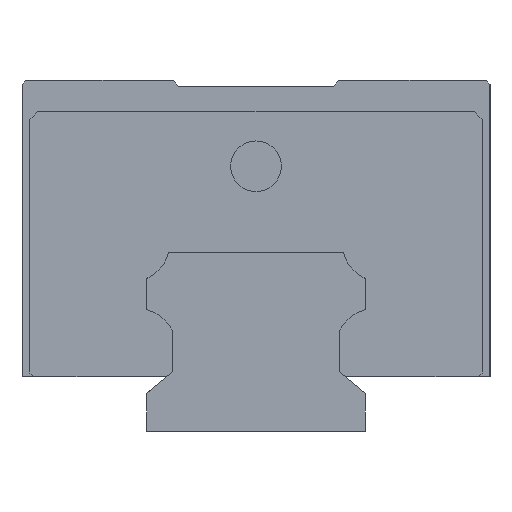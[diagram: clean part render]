
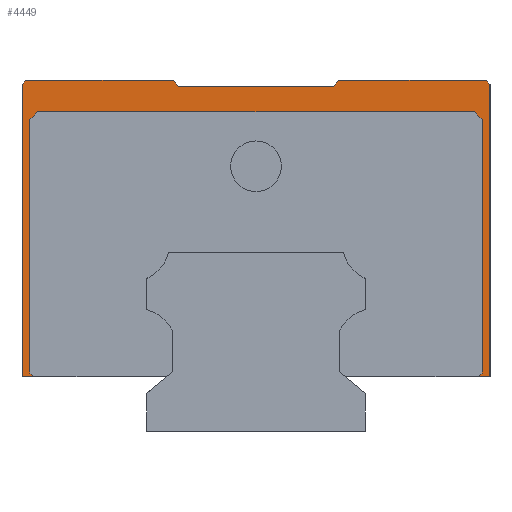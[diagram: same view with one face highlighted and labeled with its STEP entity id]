
A CAD part, left-side view. The second image highlights one B-rep face of the part: STEP entity #4449.
In plain terms, the highlighted planar face has unit normal (-1, 0, 0).
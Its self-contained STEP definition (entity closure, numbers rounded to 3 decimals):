
#4 = VERTEX_POINT ( 'NONE', #630 ) ;
#79 = VERTEX_POINT ( 'NONE', #2461 ) ;
#91 = DIRECTION ( 'NONE',  ( 0., 0.643, 0.766 ) ) ;
#141 = LINE ( 'NONE', #1831, #2253 ) ;
#146 = VECTOR ( 'NONE', #91, 1000. ) ;
#158 = DIRECTION ( 'NONE',  ( 0., -0.707, -0.707 ) ) ;
#300 = LINE ( 'NONE', #2016, #924 ) ;
#383 = CARTESIAN_POINT ( 'NONE',  ( -52.5, -29., 40. ) ) ;
#402 = DIRECTION ( 'NONE',  ( 0., 1., 0. ) ) ;
#423 = VERTEX_POINT ( 'NONE', #5238 ) ;
#555 = ORIENTED_EDGE ( 'NONE', *, *, #4187, .T. ) ;
#568 = VECTOR ( 'NONE', #742, 1000. ) ;
#569 = ORIENTED_EDGE ( 'NONE', *, *, #3364, .T. ) ;
#630 = CARTESIAN_POINT ( 'NONE',  ( -52.5, 28., 41. ) ) ;
#649 = EDGE_CURVE ( 'NONE', #79, #1020, #2998, .T. ) ;
#742 = DIRECTION ( 'NONE',  ( 0., 0., -1. ) ) ;
#747 = VECTOR ( 'NONE', #2285, 1000. ) ;
#765 = EDGE_CURVE ( 'NONE', #2109, #4, #3058, .T. ) ;
#771 = VERTEX_POINT ( 'NONE', #2939 ) ;
#795 = CARTESIAN_POINT ( 'NONE',  ( -52.5, 30., 44.5 ) ) ;
#798 = LINE ( 'NONE', #3727, #4197 ) ;
#803 = CARTESIAN_POINT ( 'NONE',  ( -52.5, -10.629, 45. ) ) ;
#828 = ORIENTED_EDGE ( 'NONE', *, *, #4360, .F. ) ;
#846 = VECTOR ( 'NONE', #1094, 1000. ) ;
#902 = CARTESIAN_POINT ( 'NONE',  ( -52.5, -10., 44.25 ) ) ;
#910 = EDGE_CURVE ( 'NONE', #5197, #4742, #2005, .T. ) ;
#924 = VECTOR ( 'NONE', #4550, 1000. ) ;
#937 = DIRECTION ( 'NONE',  ( 0., -1., 0. ) ) ;
#1020 = VERTEX_POINT ( 'NONE', #3743 ) ;
#1094 = DIRECTION ( 'NONE',  ( 0., 0.707, -0.707 ) ) ;
#1106 = CARTESIAN_POINT ( 'NONE',  ( -52.5, 28.5, 7. ) ) ;
#1114 = VERTEX_POINT ( 'NONE', #1322 ) ;
#1295 = VECTOR ( 'NONE', #402, 1000. ) ;
#1305 = EDGE_CURVE ( 'NONE', #1405, #3323, #4878, .T. ) ;
#1313 = ORIENTED_EDGE ( 'NONE', *, *, #765, .T. ) ;
#1322 = CARTESIAN_POINT ( 'NONE',  ( -52.5, 30., 7. ) ) ;
#1383 = LINE ( 'NONE', #3061, #2097 ) ;
#1405 = VERTEX_POINT ( 'NONE', #1686 ) ;
#1474 = LINE ( 'NONE', #5372, #2506 ) ;
#1533 = VECTOR ( 'NONE', #2783, 1000. ) ;
#1585 = DIRECTION ( 'NONE',  ( 0., 1., 0. ) ) ;
#1611 = VECTOR ( 'NONE', #2058, 1000. ) ;
#1651 = LINE ( 'NONE', #2911, #1295 ) ;
#1686 = CARTESIAN_POINT ( 'NONE',  ( -52.5, 28.5, 7. ) ) ;
#1726 = DIRECTION ( 'NONE',  ( 0., 0.707, -0.707 ) ) ;
#1777 = ORIENTED_EDGE ( 'NONE', *, *, #910, .F. ) ;
#1831 = CARTESIAN_POINT ( 'NONE',  ( -52.5, -29., 7.5 ) ) ;
#1885 = ORIENTED_EDGE ( 'NONE', *, *, #5195, .F. ) ;
#1971 = FACE_OUTER_BOUND ( 'NONE', #2218, .T. ) ;
#2001 = PLANE ( 'NONE',  #3222 ) ;
#2005 = LINE ( 'NONE', #3624, #1611 ) ;
#2016 = CARTESIAN_POINT ( 'NONE',  ( -52.5, -10.629, 45. ) ) ;
#2058 = DIRECTION ( 'NONE',  ( 0., 1., 0. ) ) ;
#2097 = VECTOR ( 'NONE', #937, 1000. ) ;
#2109 = VERTEX_POINT ( 'NONE', #2770 ) ;
#2200 = CARTESIAN_POINT ( 'NONE',  ( -52.5, 29., 7.5 ) ) ;
#2206 = DIRECTION ( 'NONE',  ( 0., 0., 1. ) ) ;
#2218 = EDGE_LOOP ( 'NONE', ( #2380, #4377, #1313, #3013, #4128, #5180, #569, #1777, #1885, #5128, #3034, #4236, #2710, #4536, #4366, #555, #4429, #828 ) ) ;
#2253 = VECTOR ( 'NONE', #1726, 1000. ) ;
#2254 = VECTOR ( 'NONE', #3350, 1000. ) ;
#2257 = EDGE_CURVE ( 'NONE', #4, #3428, #2530, .T. ) ;
#2266 = LINE ( 'NONE', #4467, #846 ) ;
#2285 = DIRECTION ( 'NONE',  ( 0., 0.707, 0.707 ) ) ;
#2307 = LINE ( 'NONE', #3992, #747 ) ;
#2380 = ORIENTED_EDGE ( 'NONE', *, *, #1305, .T. ) ;
#2408 = DIRECTION ( 'NONE',  ( 0., 0., 1. ) ) ;
#2461 = CARTESIAN_POINT ( 'NONE',  ( -52.5, -10., 44.25 ) ) ;
#2473 = EDGE_CURVE ( 'NONE', #2740, #2652, #2307, .T. ) ;
#2504 = DIRECTION ( 'NONE',  ( 0., -0.707, 0.707 ) ) ;
#2506 = VECTOR ( 'NONE', #158, 1000. ) ;
#2519 = VECTOR ( 'NONE', #2408, 1000. ) ;
#2530 = LINE ( 'NONE', #3325, #2254 ) ;
#2558 = EDGE_CURVE ( 'NONE', #3323, #2109, #2928, .T. ) ;
#2592 = CARTESIAN_POINT ( 'NONE',  ( -52.5, -29., 40. ) ) ;
#2652 = VERTEX_POINT ( 'NONE', #2901 ) ;
#2710 = ORIENTED_EDGE ( 'NONE', *, *, #649, .T. ) ;
#2740 = VERTEX_POINT ( 'NONE', #5164 ) ;
#2770 = CARTESIAN_POINT ( 'NONE',  ( -52.5, 29., 40. ) ) ;
#2783 = DIRECTION ( 'NONE',  ( 0., 0.707, 0.707 ) ) ;
#2800 = CARTESIAN_POINT ( 'NONE',  ( -52.5, 10.629, 45. ) ) ;
#2891 = EDGE_CURVE ( 'NONE', #3281, #79, #300, .T. ) ;
#2901 = CARTESIAN_POINT ( 'NONE',  ( -52.5, -29.5, 45. ) ) ;
#2911 = CARTESIAN_POINT ( 'NONE',  ( -52.5, 11.769, 7. ) ) ;
#2925 = LINE ( 'NONE', #5059, #5084 ) ;
#2928 = LINE ( 'NONE', #4607, #2519 ) ;
#2939 = CARTESIAN_POINT ( 'NONE',  ( -52.5, -29., 7.5 ) ) ;
#2972 = VERTEX_POINT ( 'NONE', #795 ) ;
#2998 = LINE ( 'NONE', #902, #5312 ) ;
#3013 = ORIENTED_EDGE ( 'NONE', *, *, #2257, .T. ) ;
#3034 = ORIENTED_EDGE ( 'NONE', *, *, #4776, .F. ) ;
#3058 = LINE ( 'NONE', #4222, #3369 ) ;
#3061 = CARTESIAN_POINT ( 'NONE',  ( -52.5, 30., 45. ) ) ;
#3063 = CARTESIAN_POINT ( 'NONE',  ( -52.5, -30., 45. ) ) ;
#3085 = CARTESIAN_POINT ( 'NONE',  ( -52.5, -30., 7. ) ) ;
#3098 = CARTESIAN_POINT ( 'NONE',  ( -52.5, -28., 41. ) ) ;
#3100 = EDGE_CURVE ( 'NONE', #3428, #5284, #1474, .T. ) ;
#3222 = AXIS2_PLACEMENT_3D ( 'NONE', #3707, #4966, #1585 ) ;
#3281 = VERTEX_POINT ( 'NONE', #803 ) ;
#3323 = VERTEX_POINT ( 'NONE', #2200 ) ;
#3325 = CARTESIAN_POINT ( 'NONE',  ( -52.5, 28., 41. ) ) ;
#3350 = DIRECTION ( 'NONE',  ( 0., -1., 0. ) ) ;
#3364 = EDGE_CURVE ( 'NONE', #771, #4742, #141, .T. ) ;
#3369 = VECTOR ( 'NONE', #2504, 1000. ) ;
#3414 = LINE ( 'NONE', #3885, #146 ) ;
#3428 = VERTEX_POINT ( 'NONE', #3098 ) ;
#3610 = EDGE_CURVE ( 'NONE', #5284, #771, #3696, .T. ) ;
#3624 = CARTESIAN_POINT ( 'NONE',  ( -52.5, -30., 7. ) ) ;
#3627 = EDGE_CURVE ( 'NONE', #423, #4326, #798, .T. ) ;
#3696 = LINE ( 'NONE', #383, #568 ) ;
#3707 = CARTESIAN_POINT ( 'NONE',  ( -52.5, -30., 45. ) ) ;
#3727 = CARTESIAN_POINT ( 'NONE',  ( -52.5, 30., 45. ) ) ;
#3743 = CARTESIAN_POINT ( 'NONE',  ( -52.5, 10., 44.25 ) ) ;
#3831 = DIRECTION ( 'NONE',  ( 0., 1., 0. ) ) ;
#3885 = CARTESIAN_POINT ( 'NONE',  ( -52.5, 10., 44.25 ) ) ;
#3992 = CARTESIAN_POINT ( 'NONE',  ( -52.5, -30., 44.5 ) ) ;
#4039 = VECTOR ( 'NONE', #4737, 1000. ) ;
#4128 = ORIENTED_EDGE ( 'NONE', *, *, #3100, .T. ) ;
#4187 = EDGE_CURVE ( 'NONE', #423, #2972, #2266, .T. ) ;
#4197 = VECTOR ( 'NONE', #4989, 1000. ) ;
#4222 = CARTESIAN_POINT ( 'NONE',  ( -52.5, 29., 40. ) ) ;
#4224 = CARTESIAN_POINT ( 'NONE',  ( -52.5, -28.5, 7. ) ) ;
#4236 = ORIENTED_EDGE ( 'NONE', *, *, #2891, .T. ) ;
#4326 = VERTEX_POINT ( 'NONE', #2800 ) ;
#4360 = EDGE_CURVE ( 'NONE', #1405, #1114, #1651, .T. ) ;
#4366 = ORIENTED_EDGE ( 'NONE', *, *, #3627, .F. ) ;
#4377 = ORIENTED_EDGE ( 'NONE', *, *, #2558, .T. ) ;
#4429 = ORIENTED_EDGE ( 'NONE', *, *, #5338, .F. ) ;
#4449 = ADVANCED_FACE ( 'NONE', ( #1971 ), #2001, .F. ) ;
#4467 = CARTESIAN_POINT ( 'NONE',  ( -52.5, 29.5, 45. ) ) ;
#4536 = ORIENTED_EDGE ( 'NONE', *, *, #5339, .T. ) ;
#4550 = DIRECTION ( 'NONE',  ( 0., 0.643, -0.766 ) ) ;
#4607 = CARTESIAN_POINT ( 'NONE',  ( -52.5, 29., 7.5 ) ) ;
#4737 = DIRECTION ( 'NONE',  ( 0., 0., -1. ) ) ;
#4742 = VERTEX_POINT ( 'NONE', #4224 ) ;
#4776 = EDGE_CURVE ( 'NONE', #3281, #2652, #1383, .T. ) ;
#4795 = LINE ( 'NONE', #3063, #4039 ) ;
#4878 = LINE ( 'NONE', #1106, #1533 ) ;
#4966 = DIRECTION ( 'NONE',  ( 1., 0., 0. ) ) ;
#4989 = DIRECTION ( 'NONE',  ( 0., -1., 0. ) ) ;
#5059 = CARTESIAN_POINT ( 'NONE',  ( -52.5, 30., 7. ) ) ;
#5084 = VECTOR ( 'NONE', #2206, 1000. ) ;
#5128 = ORIENTED_EDGE ( 'NONE', *, *, #2473, .T. ) ;
#5164 = CARTESIAN_POINT ( 'NONE',  ( -52.5, -30., 44.5 ) ) ;
#5180 = ORIENTED_EDGE ( 'NONE', *, *, #3610, .T. ) ;
#5195 = EDGE_CURVE ( 'NONE', #2740, #5197, #4795, .T. ) ;
#5197 = VERTEX_POINT ( 'NONE', #3085 ) ;
#5238 = CARTESIAN_POINT ( 'NONE',  ( -52.5, 29.5, 45. ) ) ;
#5284 = VERTEX_POINT ( 'NONE', #2592 ) ;
#5312 = VECTOR ( 'NONE', #3831, 1000. ) ;
#5338 = EDGE_CURVE ( 'NONE', #1114, #2972, #2925, .T. ) ;
#5339 = EDGE_CURVE ( 'NONE', #1020, #4326, #3414, .T. ) ;
#5372 = CARTESIAN_POINT ( 'NONE',  ( -52.5, -28., 41. ) ) ;
